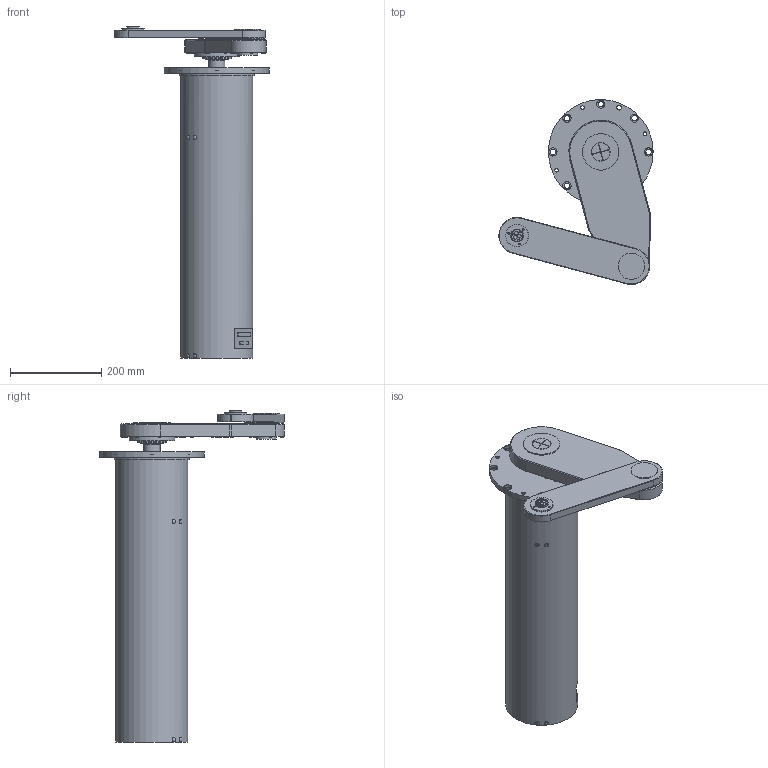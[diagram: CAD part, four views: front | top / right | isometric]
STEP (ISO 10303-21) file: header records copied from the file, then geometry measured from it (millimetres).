
FILE_DESCRIPTION(/* description */ (''),/* implementation_level */ '2;1');
FILE_NAME(/* name */ 'C:\Users\h-mitaka\Desktop\SVCR3260-040-PM-04456E.stp',/* time_stamp */ '2016-05-25T14:15:34+09:00',/* author */ ('h-mitaka'),/* organization */ (''),/* preprocessor_version */ 'ST-DEVELOPER v16.1',/* originating_system */ 'Autodesk Inventor 2016',/* authorisation */ '');
FILE_SCHEMA (('AUTOMOTIVE_DESIGN { 1 0 10303 214 3 1 1 }'));
Length unit declared in the file: millimetre
Products named in the file (6): BODY-SVS040; PIPE-SVS040; ARM1-SV260; ARM2-SV260; JOINT-9; SVCR3260-040-PM-04456E
Assembly tree (5 placements, depth 2):
  SVCR3260-040-PM-04456E
    BODY-SVS040
    PIPE-SVS040
    ARM1-SV260
    ARM2-SV260
    JOINT-9
Bounding box: 338.73 x 406.14 x 729 mm (x, y, z)
Volume: 14531991.6 mm3; surface area: 614774.7 mm2
Topology: 5 solids, 5 shells, 281 faces, 549 edges, 339 vertices
Faces by surface type: plane 123, cylinder 115, cone 30, sphere 8, torus 5
Full cylindrical faces by diameter (mm): 4 x6, 5.5 x21, 8 x7, 9.4 x8, 10 x2, 12 x8, 18 x8, 28 x1, 34 x1, 36 x2, 38 x1, 40 x1, 41 x1, 45 x1, 49.5 x1, 50 x2, 58 x1, 60 x2, 64 x1, 80 x1, 100 x1, 158 x1, 165 x1, 176.1 x1, 183.3 x1, 230 x1
Entity records: 6996 total; most frequent: CARTESIAN_POINT 1330, DIRECTION 1262, ORIENTED_EDGE 880, AXIS2_PLACEMENT_3D 566, EDGE_LOOP 494, EDGE_CURVE 424, VERTEX_POINT 326, FACE_OUTER_BOUND 281
